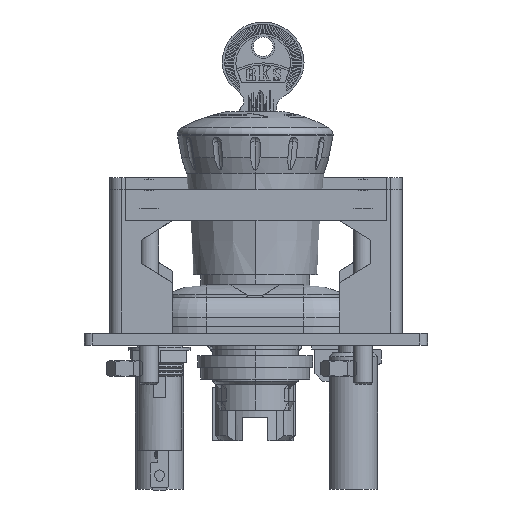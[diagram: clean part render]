
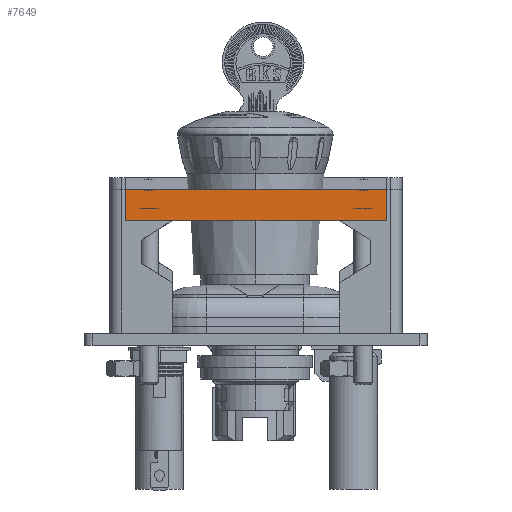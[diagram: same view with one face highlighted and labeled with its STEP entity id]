
A CAD part, left-side view. The second image highlights one B-rep face of the part: STEP entity #7649.
In plain terms, the highlighted planar face has unit normal (-1, 0, 0).
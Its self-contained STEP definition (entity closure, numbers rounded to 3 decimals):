
#7649=ADVANCED_FACE('',(#20556),#20557,.F.);
#20556=FACE_OUTER_BOUND('',#35331,.T.);
#20557=PLANE('',#35332);
#35331=EDGE_LOOP('',(#58232,#58233,#58234,#58235));
#35332=AXIS2_PLACEMENT_3D('',#58236,#58237,#58238);
#58232=ORIENTED_EDGE('',*,*,#77109,.T.);
#58233=ORIENTED_EDGE('',*,*,#77096,.T.);
#58234=ORIENTED_EDGE('',*,*,#77110,.T.);
#58235=ORIENTED_EDGE('',*,*,#77111,.T.);
#58236=CARTESIAN_POINT('',(22.892,26.716,36.0));
#58237=DIRECTION('',(1.0,0.,0.));
#58238=DIRECTION('',(0.,1.0,0.0));
#77096=EDGE_CURVE('',#84954,#84959,#84961,.T.);
#77109=EDGE_CURVE('',#84976,#84954,#84977,.T.);
#77110=EDGE_CURVE('',#84959,#84978,#84979,.T.);
#77111=EDGE_CURVE('',#84978,#84976,#84980,.T.);
#84954=VERTEX_POINT('',#96360);
#84959=VERTEX_POINT('',#96367);
#84961=LINE('',#96370,#96371);
#84976=VERTEX_POINT('',#96389);
#84977=LINE('',#96390,#96391);
#84978=VERTEX_POINT('',#96392);
#84979=LINE('',#96393,#96394);
#84980=LINE('',#96395,#96396);
#96360=CARTESIAN_POINT('',(22.892,76.966,40.0));
#96367=CARTESIAN_POINT('',(22.892,76.966,32.0));
#96370=CARTESIAN_POINT('',(22.892,76.966,36.0));
#96371=VECTOR('',#106904,1.0);
#96389=CARTESIAN_POINT('',(22.892,9.966,40.0));
#96390=CARTESIAN_POINT('',(22.892,26.716,40.0));
#96391=VECTOR('',#106920,1.0);
#96392=CARTESIAN_POINT('',(22.892,9.966,32.0));
#96393=CARTESIAN_POINT('',(22.892,26.716,32.0));
#96394=VECTOR('',#106921,1.0);
#96395=CARTESIAN_POINT('',(22.892,9.966,36.0));
#96396=VECTOR('',#106922,1.0);
#106904=DIRECTION('',(0.0,0.0,-1.0));
#106920=DIRECTION('',(0.0,1.0,0.0));
#106921=DIRECTION('',(0.0,-1.0,0.0));
#106922=DIRECTION('',(0.0,0.0,1.0));
